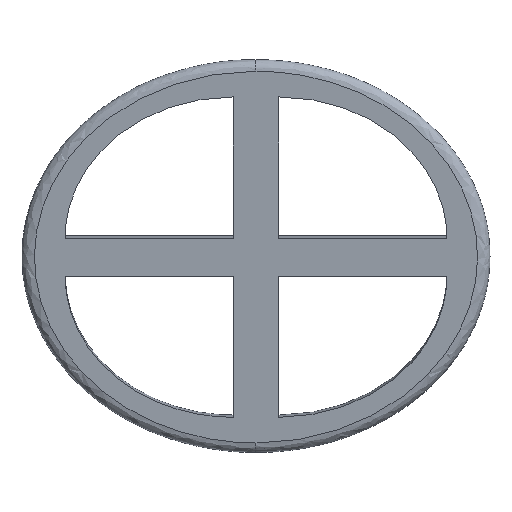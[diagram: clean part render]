
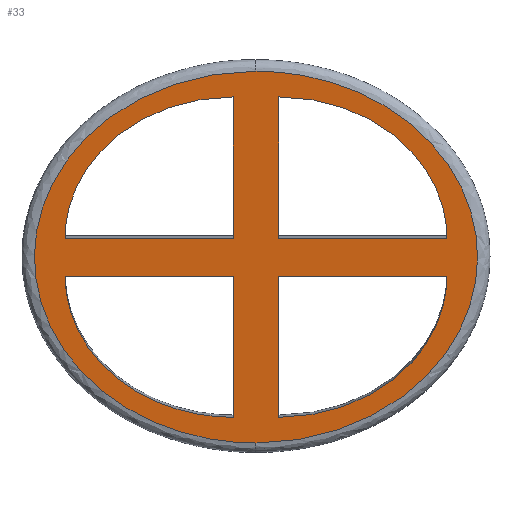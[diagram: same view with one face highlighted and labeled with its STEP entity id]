
A CAD part, front view. The second image highlights one B-rep face of the part: STEP entity #33.
In plain terms, the highlighted planar face has unit normal (-0.001, -0.994, -0.107).
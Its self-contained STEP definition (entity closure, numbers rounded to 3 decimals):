
#24=FACE_BOUND('',#70,.T.);
#25=FACE_BOUND('',#71,.T.);
#26=FACE_BOUND('',#72,.T.);
#27=FACE_BOUND('',#73,.T.);
#33=ADVANCED_FACE('',(#51,#24,#25,#26,#27),#308,.T.);
#51=FACE_OUTER_BOUND('',#69,.T.);
#69=EDGE_LOOP('',(#98,#99));
#70=EDGE_LOOP('',(#100,#101,#102));
#71=EDGE_LOOP('',(#103,#104,#105));
#72=EDGE_LOOP('',(#106,#107,#108));
#73=EDGE_LOOP('',(#109,#110,#111));
#98=ORIENTED_EDGE('',*,*,#197,.T.);
#99=ORIENTED_EDGE('',*,*,#231,.T.);
#100=ORIENTED_EDGE('',*,*,#204,.F.);
#101=ORIENTED_EDGE('',*,*,#189,.F.);
#102=ORIENTED_EDGE('',*,*,#188,.F.);
#103=ORIENTED_EDGE('',*,*,#190,.F.);
#104=ORIENTED_EDGE('',*,*,#208,.F.);
#105=ORIENTED_EDGE('',*,*,#191,.F.);
#106=ORIENTED_EDGE('',*,*,#192,.F.);
#107=ORIENTED_EDGE('',*,*,#215,.F.);
#108=ORIENTED_EDGE('',*,*,#193,.F.);
#109=ORIENTED_EDGE('',*,*,#225,.T.);
#110=ORIENTED_EDGE('',*,*,#194,.T.);
#111=ORIENTED_EDGE('',*,*,#195,.T.);
#188=EDGE_CURVE('',#279,#280,#232,.T.);
#189=EDGE_CURVE('',#280,#281,#233,.T.);
#190=EDGE_CURVE('',#283,#284,#234,.T.);
#191=EDGE_CURVE('',#284,#282,#235,.T.);
#192=EDGE_CURVE('',#286,#287,#236,.T.);
#193=EDGE_CURVE('',#287,#285,#237,.T.);
#194=EDGE_CURVE('',#288,#289,#238,.T.);
#195=EDGE_CURVE('',#289,#290,#239,.T.);
#197=EDGE_CURVE('',#303,#307,#259,.T.);
#204=EDGE_CURVE('',#281,#279,#261,.T.);
#208=EDGE_CURVE('',#282,#283,#265,.T.);
#215=EDGE_CURVE('',#285,#286,#269,.T.);
#225=EDGE_CURVE('',#290,#288,#271,.T.);
#231=EDGE_CURVE('',#307,#303,#277,.T.);
#232=B_SPLINE_CURVE_WITH_KNOTS('',1,(#1213,#1214),.UNSPECIFIED.,.F.,.F.,
(2,2),(6.283,6.783),.UNSPECIFIED.);
#233=B_SPLINE_CURVE_WITH_KNOTS('',1,(#1215,#1216),.UNSPECIFIED.,.F.,.F.,
(2,2),(6.783,7.783),.UNSPECIFIED.);
#234=B_SPLINE_CURVE_WITH_KNOTS('',1,(#1217,#1218),.UNSPECIFIED.,.F.,.F.,
(2,2),(5.142,6.142),.UNSPECIFIED.);
#235=B_SPLINE_CURVE_WITH_KNOTS('',1,(#1219,#1220),.UNSPECIFIED.,.F.,.F.,
(2,2),(6.142,6.642),.UNSPECIFIED.);
#236=B_SPLINE_CURVE_WITH_KNOTS('',1,(#1221,#1222),.UNSPECIFIED.,.F.,.F.,
(2,2),(6.142,7.142),.UNSPECIFIED.);
#237=B_SPLINE_CURVE_WITH_KNOTS('',1,(#1223,#1224),.UNSPECIFIED.,.F.,.F.,
(2,2),(7.142,7.642),.UNSPECIFIED.);
#238=B_SPLINE_CURVE_WITH_KNOTS('',1,(#1225,#1226),.UNSPECIFIED.,.F.,.F.,
(2,2),(0.,1.),.UNSPECIFIED.);
#239=B_SPLINE_CURVE_WITH_KNOTS('',1,(#1227,#1228),.UNSPECIFIED.,.F.,.F.,
(2,2),(1.,1.5),.UNSPECIFIED.);
#259=(
BOUNDED_CURVE()
B_SPLINE_CURVE(2,(#1234,#1235,#1236,#1237,#1238),.UNSPECIFIED.,.F.,.F.)
B_SPLINE_CURVE_WITH_KNOTS((3,2,3),(0.,1.571,3.142),
 .UNSPECIFIED.)
CURVE()
GEOMETRIC_REPRESENTATION_ITEM()
RATIONAL_B_SPLINE_CURVE((1.,0.707,1.,0.707,1.))
REPRESENTATION_ITEM('')
);
#261=(
BOUNDED_CURVE()
B_SPLINE_CURVE(2,(#1252,#1253,#1254),.UNSPECIFIED.,.F.,.F.)
B_SPLINE_CURVE_WITH_KNOTS((3,3),(7.783,9.354),
 .UNSPECIFIED.)
CURVE()
GEOMETRIC_REPRESENTATION_ITEM()
RATIONAL_B_SPLINE_CURVE((1.,0.707,1.))
REPRESENTATION_ITEM('')
);
#265=(
BOUNDED_CURVE()
B_SPLINE_CURVE(2,(#1262,#1263,#1264),.UNSPECIFIED.,.F.,.F.)
B_SPLINE_CURVE_WITH_KNOTS((3,3),(3.571,5.142),
 .UNSPECIFIED.)
CURVE()
GEOMETRIC_REPRESENTATION_ITEM()
RATIONAL_B_SPLINE_CURVE((1.,0.707,1.))
REPRESENTATION_ITEM('')
);
#269=(
BOUNDED_CURVE()
B_SPLINE_CURVE(2,(#1278,#1279,#1280),.UNSPECIFIED.,.F.,.F.)
B_SPLINE_CURVE_WITH_KNOTS((3,3),(4.571,6.142),
 .UNSPECIFIED.)
CURVE()
GEOMETRIC_REPRESENTATION_ITEM()
RATIONAL_B_SPLINE_CURVE((1.,0.707,1.))
REPRESENTATION_ITEM('')
);
#271=(
BOUNDED_CURVE()
B_SPLINE_CURVE(2,(#1300,#1301,#1302),.UNSPECIFIED.,.F.,.F.)
B_SPLINE_CURVE_WITH_KNOTS((3,3),(1.5,3.071),.UNSPECIFIED.)
CURVE()
GEOMETRIC_REPRESENTATION_ITEM()
RATIONAL_B_SPLINE_CURVE((1.,0.707,1.))
REPRESENTATION_ITEM('')
);
#277=(
BOUNDED_CURVE()
B_SPLINE_CURVE(2,(#1371,#1372,#1373,#1374,#1375),.UNSPECIFIED.,.F.,.F.)
B_SPLINE_CURVE_WITH_KNOTS((3,2,3),(3.142,4.712,6.283),
 .UNSPECIFIED.)
CURVE()
GEOMETRIC_REPRESENTATION_ITEM()
RATIONAL_B_SPLINE_CURVE((1.,0.707,1.,0.707,1.))
REPRESENTATION_ITEM('')
);
#279=VERTEX_POINT('',#1127);
#280=VERTEX_POINT('',#1128);
#281=VERTEX_POINT('',#1129);
#282=VERTEX_POINT('',#1130);
#283=VERTEX_POINT('',#1131);
#284=VERTEX_POINT('',#1132);
#285=VERTEX_POINT('',#1133);
#286=VERTEX_POINT('',#1134);
#287=VERTEX_POINT('',#1135);
#288=VERTEX_POINT('',#1136);
#289=VERTEX_POINT('',#1137);
#290=VERTEX_POINT('',#1138);
#303=VERTEX_POINT('',#1151);
#307=VERTEX_POINT('',#1155);
#308=PLANE('',#346);
#346=AXIS2_PLACEMENT_3D('',#552,#359,$);
#359=DIRECTION('',(-0.001,-0.994,-0.107));
#552=CARTESIAN_POINT('',(-32.317,-91.679,-18.099));
#1127=CARTESIAN_POINT('',(-3.316,-92.166,-13.911));
#1128=CARTESIAN_POINT('',(-3.316,-94.338,6.234));
#1129=CARTESIAN_POINT('',(-27.322,-94.309,6.237));
#1130=CARTESIAN_POINT('',(-3.316,-97.092,31.778));
#1131=CARTESIAN_POINT('',(-27.322,-94.891,11.637));
#1132=CARTESIAN_POINT('',(-3.316,-94.92,11.633));
#1133=CARTESIAN_POINT('',(3.119,-92.174,-13.912));
#1134=CARTESIAN_POINT('',(27.125,-94.375,6.23));
#1135=CARTESIAN_POINT('',(3.119,-94.346,6.233));
#1136=CARTESIAN_POINT('',(27.125,-94.957,11.63));
#1137=CARTESIAN_POINT('',(3.119,-94.928,11.633));
#1138=CARTESIAN_POINT('',(3.119,-97.1,31.777));
#1151=CARTESIAN_POINT('',(-0.098,-91.775,-17.573));
#1155=CARTESIAN_POINT('',(-0.098,-97.491,35.439));
#1213=CARTESIAN_POINT('',(-3.316,-92.166,-13.911));
#1214=CARTESIAN_POINT('',(-3.316,-94.338,6.234));
#1215=CARTESIAN_POINT('',(-3.316,-94.338,6.234));
#1216=CARTESIAN_POINT('',(-27.322,-94.309,6.237));
#1217=CARTESIAN_POINT('',(-27.322,-94.891,11.637));
#1218=CARTESIAN_POINT('',(-3.316,-94.92,11.633));
#1219=CARTESIAN_POINT('',(-3.316,-94.92,11.633));
#1220=CARTESIAN_POINT('',(-3.316,-97.092,31.778));
#1221=CARTESIAN_POINT('',(27.125,-94.375,6.23));
#1222=CARTESIAN_POINT('',(3.119,-94.346,6.233));
#1223=CARTESIAN_POINT('',(3.119,-94.346,6.233));
#1224=CARTESIAN_POINT('',(3.119,-92.174,-13.912));
#1225=CARTESIAN_POINT('',(27.125,-94.957,11.63));
#1226=CARTESIAN_POINT('',(3.119,-94.928,11.633));
#1227=CARTESIAN_POINT('',(3.119,-94.928,11.633));
#1228=CARTESIAN_POINT('',(3.119,-97.1,31.777));
#1234=CARTESIAN_POINT('',(-0.098,-91.775,-17.573));
#1235=CARTESIAN_POINT('',(31.489,-91.813,-17.577));
#1236=CARTESIAN_POINT('',(31.489,-94.671,8.929));
#1237=CARTESIAN_POINT('',(31.489,-97.529,35.435));
#1238=CARTESIAN_POINT('',(-0.098,-97.491,35.439));
#1252=CARTESIAN_POINT('',(-27.322,-94.309,6.237));
#1253=CARTESIAN_POINT('',(-27.322,-92.137,-13.908));
#1254=CARTESIAN_POINT('',(-3.316,-92.166,-13.911));
#1262=CARTESIAN_POINT('',(-3.316,-97.092,31.778));
#1263=CARTESIAN_POINT('',(-27.322,-97.063,31.781));
#1264=CARTESIAN_POINT('',(-27.322,-94.891,11.637));
#1278=CARTESIAN_POINT('',(3.119,-92.174,-13.912));
#1279=CARTESIAN_POINT('',(27.125,-92.203,-13.915));
#1280=CARTESIAN_POINT('',(27.125,-94.375,6.23));
#1300=CARTESIAN_POINT('',(3.119,-97.1,31.777));
#1301=CARTESIAN_POINT('',(27.125,-97.129,31.774));
#1302=CARTESIAN_POINT('',(27.125,-94.957,11.63));
#1371=CARTESIAN_POINT('',(-0.098,-97.491,35.439));
#1372=CARTESIAN_POINT('',(-31.685,-97.453,35.443));
#1373=CARTESIAN_POINT('',(-31.685,-94.595,8.937));
#1374=CARTESIAN_POINT('',(-31.685,-91.737,-17.569));
#1375=CARTESIAN_POINT('',(-0.098,-91.775,-17.573));
